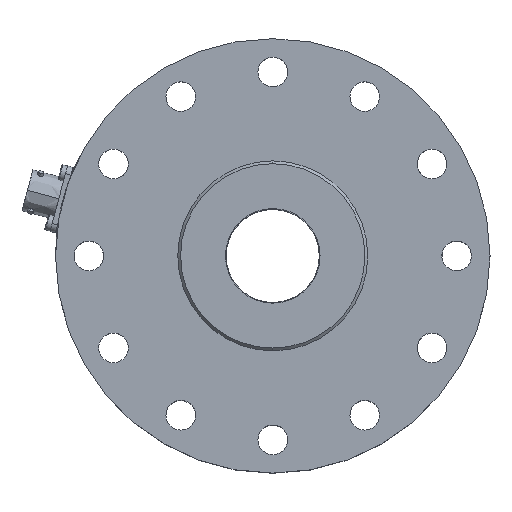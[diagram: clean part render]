
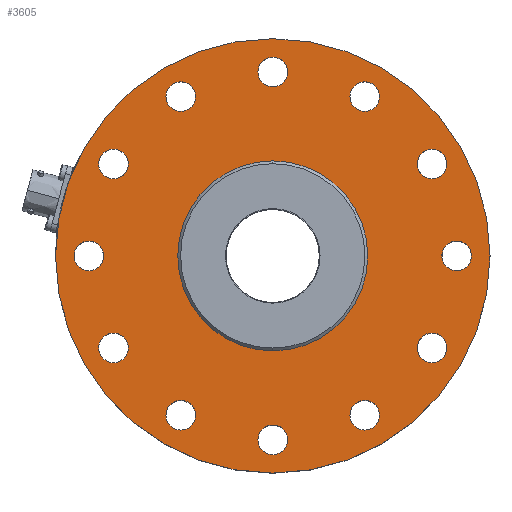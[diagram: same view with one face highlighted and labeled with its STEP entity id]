
A CAD part, top view. The second image highlights one B-rep face of the part: STEP entity #3605.
In plain terms, the highlighted free-form (B-spline) face has degree [1, 1] with [2, 2] control points.
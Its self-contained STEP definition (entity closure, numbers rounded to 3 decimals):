
#230=CARTESIAN_POINT('',(0.,0.,41.4));
#231=DIRECTION('',(0.,0.,-1.));
#232=DIRECTION('',(0.,-1.,0.));
#233=AXIS2_PLACEMENT_3D('',#230,#231,#232);
#235=CARTESIAN_POINT('',(0.,0.,41.4));
#236=DIRECTION('',(0.,0.,1.));
#237=DIRECTION('',(0.,-1.,0.));
#238=AXIS2_PLACEMENT_3D('',#235,#236,#237);
#240=CARTESIAN_POINT('',(-56.422,-32.575,41.4));
#241=DIRECTION('',(0.,0.,-1.));
#242=DIRECTION('',(-1.,0.,0.));
#243=AXIS2_PLACEMENT_3D('',#240,#241,#242);
#245=CARTESIAN_POINT('',(-56.422,-32.575,41.4));
#246=DIRECTION('',(0.,0.,-1.));
#247=DIRECTION('',(1.,0.,0.));
#248=AXIS2_PLACEMENT_3D('',#245,#246,#247);
#250=CARTESIAN_POINT('',(-32.575,-56.422,41.4));
#251=DIRECTION('',(0.,0.,-1.));
#252=DIRECTION('',(-1.,0.,0.));
#253=AXIS2_PLACEMENT_3D('',#250,#251,#252);
#255=CARTESIAN_POINT('',(-32.575,-56.422,41.4));
#256=DIRECTION('',(0.,0.,-1.));
#257=DIRECTION('',(1.,0.,0.));
#258=AXIS2_PLACEMENT_3D('',#255,#256,#257);
#260=CARTESIAN_POINT('',(0.,-65.15,41.4));
#261=DIRECTION('',(0.,0.,-1.));
#262=DIRECTION('',(-1.,0.,0.));
#263=AXIS2_PLACEMENT_3D('',#260,#261,#262);
#265=CARTESIAN_POINT('',(0.,-65.15,41.4));
#266=DIRECTION('',(0.,0.,-1.));
#267=DIRECTION('',(1.,0.,0.));
#268=AXIS2_PLACEMENT_3D('',#265,#266,#267);
#270=CARTESIAN_POINT('',(32.575,-56.422,41.4));
#271=DIRECTION('',(0.,0.,-1.));
#272=DIRECTION('',(-1.,0.,0.));
#273=AXIS2_PLACEMENT_3D('',#270,#271,#272);
#275=CARTESIAN_POINT('',(32.575,-56.422,41.4));
#276=DIRECTION('',(0.,0.,-1.));
#277=DIRECTION('',(1.,0.,0.));
#278=AXIS2_PLACEMENT_3D('',#275,#276,#277);
#280=CARTESIAN_POINT('',(56.422,-32.575,41.4));
#281=DIRECTION('',(0.,0.,-1.));
#282=DIRECTION('',(-1.,0.,0.));
#283=AXIS2_PLACEMENT_3D('',#280,#281,#282);
#285=CARTESIAN_POINT('',(56.422,-32.575,41.4));
#286=DIRECTION('',(0.,0.,-1.));
#287=DIRECTION('',(1.,0.,0.));
#288=AXIS2_PLACEMENT_3D('',#285,#286,#287);
#290=CARTESIAN_POINT('',(65.15,0.,41.4));
#291=DIRECTION('',(0.,0.,-1.));
#292=DIRECTION('',(-1.,0.,0.));
#293=AXIS2_PLACEMENT_3D('',#290,#291,#292);
#295=CARTESIAN_POINT('',(65.15,0.,41.4));
#296=DIRECTION('',(0.,0.,-1.));
#297=DIRECTION('',(1.,0.,0.));
#298=AXIS2_PLACEMENT_3D('',#295,#296,#297);
#300=CARTESIAN_POINT('',(56.422,32.575,41.4));
#301=DIRECTION('',(0.,0.,-1.));
#302=DIRECTION('',(-1.,0.,0.));
#303=AXIS2_PLACEMENT_3D('',#300,#301,#302);
#305=CARTESIAN_POINT('',(56.422,32.575,41.4));
#306=DIRECTION('',(0.,0.,-1.));
#307=DIRECTION('',(1.,0.,0.));
#308=AXIS2_PLACEMENT_3D('',#305,#306,#307);
#310=CARTESIAN_POINT('',(32.575,56.422,41.4));
#311=DIRECTION('',(0.,0.,-1.));
#312=DIRECTION('',(-1.,0.,0.));
#313=AXIS2_PLACEMENT_3D('',#310,#311,#312);
#315=CARTESIAN_POINT('',(32.575,56.422,41.4));
#316=DIRECTION('',(0.,0.,-1.));
#317=DIRECTION('',(1.,0.,0.));
#318=AXIS2_PLACEMENT_3D('',#315,#316,#317);
#320=CARTESIAN_POINT('',(0.,65.15,41.4));
#321=DIRECTION('',(0.,0.,-1.));
#322=DIRECTION('',(-1.,0.,0.));
#323=AXIS2_PLACEMENT_3D('',#320,#321,#322);
#325=CARTESIAN_POINT('',(0.,65.15,41.4));
#326=DIRECTION('',(0.,0.,-1.));
#327=DIRECTION('',(1.,0.,0.));
#328=AXIS2_PLACEMENT_3D('',#325,#326,#327);
#330=CARTESIAN_POINT('',(-32.575,56.422,41.4));
#331=DIRECTION('',(0.,0.,-1.));
#332=DIRECTION('',(-1.,0.,0.));
#333=AXIS2_PLACEMENT_3D('',#330,#331,#332);
#335=CARTESIAN_POINT('',(-32.575,56.422,41.4));
#336=DIRECTION('',(0.,0.,-1.));
#337=DIRECTION('',(1.,0.,0.));
#338=AXIS2_PLACEMENT_3D('',#335,#336,#337);
#340=CARTESIAN_POINT('',(-56.422,32.575,41.4));
#341=DIRECTION('',(0.,0.,-1.));
#342=DIRECTION('',(-1.,0.,0.));
#343=AXIS2_PLACEMENT_3D('',#340,#341,#342);
#345=CARTESIAN_POINT('',(-56.422,32.575,41.4));
#346=DIRECTION('',(0.,0.,-1.));
#347=DIRECTION('',(1.,0.,0.));
#348=AXIS2_PLACEMENT_3D('',#345,#346,#347);
#350=CARTESIAN_POINT('',(0.,0.,41.4));
#351=DIRECTION('',(0.,0.,-1.));
#352=DIRECTION('',(0.,-1.,0.));
#353=AXIS2_PLACEMENT_3D('',#350,#351,#352);
#355=CARTESIAN_POINT('',(0.,0.,41.4));
#356=DIRECTION('',(0.,0.,1.));
#357=DIRECTION('',(0.,-1.,0.));
#358=AXIS2_PLACEMENT_3D('',#355,#356,#357);
#360=CARTESIAN_POINT('',(-65.15,0.,41.4));
#361=DIRECTION('',(0.,0.,-1.));
#362=DIRECTION('',(-1.,0.,0.));
#363=AXIS2_PLACEMENT_3D('',#360,#361,#362);
#365=CARTESIAN_POINT('',(-65.15,0.,41.4));
#366=DIRECTION('',(0.,0.,-1.));
#367=DIRECTION('',(1.,0.,0.));
#368=AXIS2_PLACEMENT_3D('',#365,#366,#367);
#2526=CARTESIAN_POINT('',(0.,-76.95,41.4));
#2528=VERTEX_POINT('',#2526);
#2530=CARTESIAN_POINT('',(0.,76.95,41.4));
#2532=VERTEX_POINT('',#2530);
#2534=CARTESIAN_POINT('',(0.,-33.65,41.4));
#2535=CARTESIAN_POINT('',(0.,33.65,41.4));
#2536=VERTEX_POINT('',#2534);
#2537=VERTEX_POINT('',#2535);
#2546=CARTESIAN_POINT('',(-70.4,0.,41.4));
#2547=CARTESIAN_POINT('',(-59.9,0.,41.4));
#2548=VERTEX_POINT('',#2546);
#2549=VERTEX_POINT('',#2547);
#2550=CARTESIAN_POINT('',(-61.672,32.575,41.4));
#2551=CARTESIAN_POINT('',(-51.172,32.575,41.4));
#2552=VERTEX_POINT('',#2550);
#2553=VERTEX_POINT('',#2551);
#2554=CARTESIAN_POINT('',(-37.825,56.422,41.4));
#2555=CARTESIAN_POINT('',(-27.325,56.422,41.4));
#2556=VERTEX_POINT('',#2554);
#2557=VERTEX_POINT('',#2555);
#2558=CARTESIAN_POINT('',(-5.25,65.15,41.4));
#2559=CARTESIAN_POINT('',(5.25,65.15,41.4));
#2560=VERTEX_POINT('',#2558);
#2561=VERTEX_POINT('',#2559);
#2562=CARTESIAN_POINT('',(27.325,56.422,41.4));
#2563=CARTESIAN_POINT('',(37.825,56.422,41.4));
#2564=VERTEX_POINT('',#2562);
#2565=VERTEX_POINT('',#2563);
#2566=CARTESIAN_POINT('',(51.172,32.575,41.4));
#2567=CARTESIAN_POINT('',(61.672,32.575,41.4));
#2568=VERTEX_POINT('',#2566);
#2569=VERTEX_POINT('',#2567);
#2570=CARTESIAN_POINT('',(59.9,0.,41.4));
#2571=CARTESIAN_POINT('',(70.4,0.,41.4));
#2572=VERTEX_POINT('',#2570);
#2573=VERTEX_POINT('',#2571);
#2574=CARTESIAN_POINT('',(51.172,-32.575,41.4));
#2575=CARTESIAN_POINT('',(61.672,-32.575,41.4));
#2576=VERTEX_POINT('',#2574);
#2577=VERTEX_POINT('',#2575);
#2578=CARTESIAN_POINT('',(27.325,-56.422,41.4));
#2579=CARTESIAN_POINT('',(37.825,-56.422,41.4));
#2580=VERTEX_POINT('',#2578);
#2581=VERTEX_POINT('',#2579);
#2582=CARTESIAN_POINT('',(-5.25,-65.15,41.4));
#2583=CARTESIAN_POINT('',(5.25,-65.15,41.4));
#2584=VERTEX_POINT('',#2582);
#2585=VERTEX_POINT('',#2583);
#2586=CARTESIAN_POINT('',(-37.825,-56.422,41.4));
#2587=CARTESIAN_POINT('',(-27.325,-56.422,41.4));
#2588=VERTEX_POINT('',#2586);
#2589=VERTEX_POINT('',#2587);
#2590=CARTESIAN_POINT('',(-61.672,-32.575,41.4));
#2591=CARTESIAN_POINT('',(-51.172,-32.575,41.4));
#2592=VERTEX_POINT('',#2590);
#2593=VERTEX_POINT('',#2591);
#3518=CARTESIAN_POINT('',(80.031,-80.028,41.4));
#3519=CARTESIAN_POINT('',(-80.031,-80.028,41.4));
#3520=CARTESIAN_POINT('',(80.031,80.028,41.4));
#3521=CARTESIAN_POINT('',(-80.031,80.028,41.4));
#3522=B_SPLINE_SURFACE_WITH_KNOTS('',1,1,((#3518,#3519),(#3520,#3521)),
.UNSPECIFIED.,.F.,.F.,.F.,(2,2),(2,2),(-80.028,80.028),(-80.031,
80.031),.UNSPECIFIED.);
#3523=ORIENTED_EDGE('',*,*,#3510,.F.);
#3524=ORIENTED_EDGE('',*,*,#3466,.T.);
#3525=EDGE_LOOP('',(#3523,#3524));
#3526=FACE_OUTER_BOUND('',#3525,.F.);
#3528=ORIENTED_EDGE('',*,*,#3527,.F.);
#3530=ORIENTED_EDGE('',*,*,#3529,.F.);
#3531=EDGE_LOOP('',(#3528,#3530));
#3532=FACE_BOUND('',#3531,.F.);
#3534=ORIENTED_EDGE('',*,*,#3533,.F.);
#3536=ORIENTED_EDGE('',*,*,#3535,.F.);
#3537=EDGE_LOOP('',(#3534,#3536));
#3538=FACE_BOUND('',#3537,.F.);
#3540=ORIENTED_EDGE('',*,*,#3539,.F.);
#3542=ORIENTED_EDGE('',*,*,#3541,.F.);
#3543=EDGE_LOOP('',(#3540,#3542));
#3544=FACE_BOUND('',#3543,.F.);
#3546=ORIENTED_EDGE('',*,*,#3545,.F.);
#3548=ORIENTED_EDGE('',*,*,#3547,.F.);
#3549=EDGE_LOOP('',(#3546,#3548));
#3550=FACE_BOUND('',#3549,.F.);
#3552=ORIENTED_EDGE('',*,*,#3551,.F.);
#3554=ORIENTED_EDGE('',*,*,#3553,.F.);
#3555=EDGE_LOOP('',(#3552,#3554));
#3556=FACE_BOUND('',#3555,.F.);
#3558=ORIENTED_EDGE('',*,*,#3557,.F.);
#3560=ORIENTED_EDGE('',*,*,#3559,.F.);
#3561=EDGE_LOOP('',(#3558,#3560));
#3562=FACE_BOUND('',#3561,.F.);
#3564=ORIENTED_EDGE('',*,*,#3563,.F.);
#3566=ORIENTED_EDGE('',*,*,#3565,.F.);
#3567=EDGE_LOOP('',(#3564,#3566));
#3568=FACE_BOUND('',#3567,.F.);
#3570=ORIENTED_EDGE('',*,*,#3569,.F.);
#3572=ORIENTED_EDGE('',*,*,#3571,.F.);
#3573=EDGE_LOOP('',(#3570,#3572));
#3574=FACE_BOUND('',#3573,.F.);
#3576=ORIENTED_EDGE('',*,*,#3575,.F.);
#3578=ORIENTED_EDGE('',*,*,#3577,.F.);
#3579=EDGE_LOOP('',(#3576,#3578));
#3580=FACE_BOUND('',#3579,.F.);
#3582=ORIENTED_EDGE('',*,*,#3581,.F.);
#3584=ORIENTED_EDGE('',*,*,#3583,.F.);
#3585=EDGE_LOOP('',(#3582,#3584));
#3586=FACE_BOUND('',#3585,.F.);
#3588=ORIENTED_EDGE('',*,*,#3587,.F.);
#3590=ORIENTED_EDGE('',*,*,#3589,.F.);
#3591=EDGE_LOOP('',(#3588,#3590));
#3592=FACE_BOUND('',#3591,.F.);
#3594=ORIENTED_EDGE('',*,*,#3593,.F.);
#3596=ORIENTED_EDGE('',*,*,#3595,.T.);
#3597=EDGE_LOOP('',(#3594,#3596));
#3598=FACE_BOUND('',#3597,.F.);
#3600=ORIENTED_EDGE('',*,*,#3599,.F.);
#3602=ORIENTED_EDGE('',*,*,#3601,.F.);
#3603=EDGE_LOOP('',(#3600,#3602));
#3604=FACE_BOUND('',#3603,.F.);
#234=CIRCLE('',#233,76.95);
#239=CIRCLE('',#238,76.95);
#244=CIRCLE('',#243,5.25);
#249=CIRCLE('',#248,5.25);
#254=CIRCLE('',#253,5.25);
#259=CIRCLE('',#258,5.25);
#264=CIRCLE('',#263,5.25);
#269=CIRCLE('',#268,5.25);
#274=CIRCLE('',#273,5.25);
#279=CIRCLE('',#278,5.25);
#284=CIRCLE('',#283,5.25);
#289=CIRCLE('',#288,5.25);
#294=CIRCLE('',#293,5.25);
#299=CIRCLE('',#298,5.25);
#304=CIRCLE('',#303,5.25);
#309=CIRCLE('',#308,5.25);
#314=CIRCLE('',#313,5.25);
#319=CIRCLE('',#318,5.25);
#324=CIRCLE('',#323,5.25);
#329=CIRCLE('',#328,5.25);
#334=CIRCLE('',#333,5.25);
#339=CIRCLE('',#338,5.25);
#344=CIRCLE('',#343,5.25);
#349=CIRCLE('',#348,5.25);
#354=CIRCLE('',#353,33.65);
#359=CIRCLE('',#358,33.65);
#364=CIRCLE('',#363,5.25);
#369=CIRCLE('',#368,5.25);
#3466=EDGE_CURVE('',#2528,#2532,#234,.T.);
#3510=EDGE_CURVE('',#2528,#2532,#239,.T.);
#3527=EDGE_CURVE('',#2592,#2593,#244,.T.);
#3529=EDGE_CURVE('',#2593,#2592,#249,.T.);
#3533=EDGE_CURVE('',#2588,#2589,#254,.T.);
#3535=EDGE_CURVE('',#2589,#2588,#259,.T.);
#3539=EDGE_CURVE('',#2584,#2585,#264,.T.);
#3541=EDGE_CURVE('',#2585,#2584,#269,.T.);
#3545=EDGE_CURVE('',#2580,#2581,#274,.T.);
#3547=EDGE_CURVE('',#2581,#2580,#279,.T.);
#3551=EDGE_CURVE('',#2576,#2577,#284,.T.);
#3553=EDGE_CURVE('',#2577,#2576,#289,.T.);
#3557=EDGE_CURVE('',#2572,#2573,#294,.T.);
#3559=EDGE_CURVE('',#2573,#2572,#299,.T.);
#3563=EDGE_CURVE('',#2568,#2569,#304,.T.);
#3565=EDGE_CURVE('',#2569,#2568,#309,.T.);
#3569=EDGE_CURVE('',#2564,#2565,#314,.T.);
#3571=EDGE_CURVE('',#2565,#2564,#319,.T.);
#3575=EDGE_CURVE('',#2560,#2561,#324,.T.);
#3577=EDGE_CURVE('',#2561,#2560,#329,.T.);
#3581=EDGE_CURVE('',#2556,#2557,#334,.T.);
#3583=EDGE_CURVE('',#2557,#2556,#339,.T.);
#3587=EDGE_CURVE('',#2552,#2553,#344,.T.);
#3589=EDGE_CURVE('',#2553,#2552,#349,.T.);
#3593=EDGE_CURVE('',#2536,#2537,#354,.T.);
#3595=EDGE_CURVE('',#2536,#2537,#359,.T.);
#3599=EDGE_CURVE('',#2548,#2549,#364,.T.);
#3601=EDGE_CURVE('',#2549,#2548,#369,.T.);
#3605=ADVANCED_FACE('',(#3526,#3532,#3538,#3544,#3550,#3556,#3562,#3568,#3574,
#3580,#3586,#3592,#3598,#3604),#3522,.T.);
